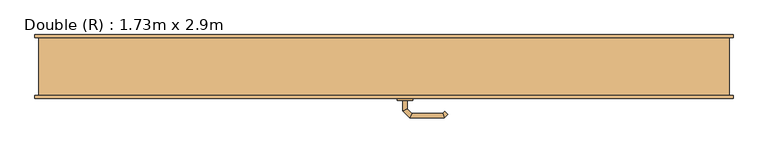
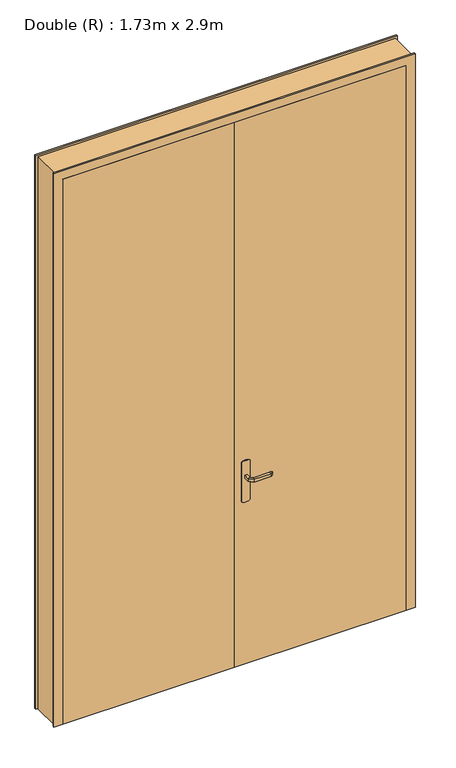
"""IFC4 building model written with IfcOpenShell, lengths in millimetres: door geometry, Double (R) : 1.73m x 2.9m."""

from ifc_helpers import new_model, si_unit, point, frame, frame_2d, origin, origin_with_axes, place, context, project, spatial, polyline, circle_curve, ellipse_curve, trimmed, segment, composite_curve, outline, extrude, faceted_brep, source, transform, mapped, element, save
from ifc_brep_helpers import plane_surface, cylinder_surface, advanced_brep


def double_r_1_73m_x_2_9m_4bc1b3c2(model_context):
    return source(origin(), model_context, "Body", "SolidModel", [
        advanced_brep(
        [(61.0, -38.0, 993.0), (61.0, -38.0, 1007.0), (49.0, -38.0, 1007.0), (49.0, -38.0, 993.0), (61.0, -15.5147955, 993.0), (61.0, -15.5147955, 1007.0), (49.0, -10.5442327, 1007.0), (49.0, -10.5442327, 993.0), (72.4852814, -4.0295141, 993.0), (72.4852814, -4.0295141, 1007.0), (67.5147186, 7.9704859, 1007.0), (67.5147186, 7.9704859, 993.0), (152.5605023, -4.0295141, 993.0), (152.5605023, -4.0295141, 1007.0), (157.531065, 7.9704859, 1007.0), (157.531065, 7.9704859, 993.0), (157.8742108, -9.3432226, 993.0), (166.3594922, -0.8579412, 993.0), (166.3594922, -0.8579412, 1007.0), (157.8742108, -9.3432226, 1007.0)],
        [
            (0, 1),
            (1, 2, circle_curve(frame((55.0, -38.0, 986.9542278), z_axis=(0.0, -1.0, 0.0), x_axis=(-1.0, 0.0, 0.0)), 20.9244589)),
            (2, 3),
            (3, 0, circle_curve(frame((55.0, -38.0, 1013.0457722), z_axis=(0.0, -1.0, 0.0), x_axis=(-1.0, 0.0, 0.0)), 20.9244589)),
            (0, 4),
            (4, 5),
            (5, 1),
            (5, 6, ellipse_curve(frame((55.0, -13.0295141, 986.9542278), z_axis=(-0.38268343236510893, -0.9238795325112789, 0.0), x_axis=(0.9238795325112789, -0.3826834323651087, 0.0)), 22.6484711, 20.9244589)),
            (6, 2),
            (6, 7),
            (7, 3),
            (7, 4, ellipse_curve(frame((55.0, -13.0295141, 1013.0457722), z_axis=(-0.38268343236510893, -0.9238795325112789, 0.0), x_axis=(0.9238795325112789, -0.3826834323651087, 0.0)), 22.6484711, 20.9244589)),
            (4, 8),
            (8, 9),
            (9, 5),
            (9, 10, ellipse_curve(frame((70.0, 1.9704859, 986.9542278), z_axis=(-0.9238795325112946, -0.38268343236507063, 0.0), x_axis=(0.3826834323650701, -0.9238795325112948, 0.0)), 22.6484711, 20.9244589)),
            (10, 6),
            (10, 11),
            (11, 7),
            (11, 8, ellipse_curve(frame((70.0, 1.9704859, 1013.0457722), z_axis=(-0.9238795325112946, -0.38268343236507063, 0.0), x_axis=(0.3826834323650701, -0.9238795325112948, 0.0)), 22.6484711, 20.9244589)),
            (8, 12),
            (12, 13),
            (13, 9),
            (13, 14, ellipse_curve(frame((155.0457837, 1.9704859, 986.9542278), z_axis=(-0.9238795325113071, 0.38268343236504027, 0.0), x_axis=(-0.38268343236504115, -0.9238795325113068, 0.0)), 22.6484711, 20.9244589)),
            (14, 10),
            (14, 15),
            (15, 11),
            (15, 12, ellipse_curve(frame((155.0457837, 1.9704859, 1013.0457722), z_axis=(-0.9238795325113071, 0.38268343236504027, 0.0), x_axis=(-0.38268343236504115, -0.9238795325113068, 0.0)), 22.6484711, 20.9244589)),
            (16, 17, circle_curve(frame((162.1168515, -5.1005819, 1013.0457722), z_axis=(0.7071067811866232, -0.7071067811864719, 0.0), x_axis=(0.7071067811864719, 0.7071067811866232, 0.0)), 20.9244589)),
            (17, 18),
            (18, 19, circle_curve(frame((162.1168515, -5.1005819, 986.9542278), z_axis=(0.7071067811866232, -0.7071067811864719, 0.0), x_axis=(0.7071067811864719, 0.7071067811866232, 0.0)), 20.9244589)),
            (19, 16),
            (12, 16),
            (19, 13),
            (18, 14),
            (17, 15),
        ],
        [
            plane_surface(frame((45.7804555, -38.0, 1000.0), z_axis=(0.0, -1.0, 0.0), x_axis=(0.0, 0.0, 1.0))),
            plane_surface(frame((61.0, -38.0, 993.0), z_axis=(1.0, 0.0, 0.0), x_axis=(0.0, 1.0, 0.0))),
            cylinder_surface(frame((55.0, -38.0, 986.9542278), z_axis=(0.0, -1.0, 0.0), x_axis=(-1.0, 0.0, 0.0)), 20.9244589),
            plane_surface(frame((49.0, -38.0, 1007.0), z_axis=(-1.0, 0.0, 0.0), x_axis=(0.0, 1.0, 0.0))),
            cylinder_surface(frame((55.0, -38.0, 1013.0457722), z_axis=(0.0, -1.0, 0.0), x_axis=(-1.0, 0.0, 0.0)), 20.9244589),
            plane_surface(frame((61.0, -15.5147955, 993.0), z_axis=(0.707106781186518, -0.707106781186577, 0.0), x_axis=(0.707106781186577, 0.707106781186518, 0.0))),
            cylinder_surface(frame((55.0, -13.0295141, 986.9542278), z_axis=(-0.7071067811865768, -0.7071067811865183, 0.0), x_axis=(-0.7071067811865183, 0.7071067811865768, 0.0)), 20.9244589),
            plane_surface(frame((49.0, -10.5442327, 1007.0), z_axis=(-0.7071067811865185, 0.7071067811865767, 0.0), x_axis=(0.7071067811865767, 0.7071067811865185, 0.0))),
            cylinder_surface(frame((55.0, -13.0295141, 1013.0457722), z_axis=(-0.7071067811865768, -0.7071067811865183, 0.0), x_axis=(-0.7071067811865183, 0.7071067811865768, 0.0)), 20.9244589),
            plane_surface(frame((72.4852814, -4.0295141, 993.0), z_axis=(0.0, -1.0, 0.0), x_axis=(1.0, 0.0, 0.0))),
            cylinder_surface(frame((70.0, 1.9704859, 986.9542278), z_axis=(-1.0, 0.0, 0.0), x_axis=(0.0, 1.0, 0.0)), 20.9244589),
            plane_surface(frame((67.5147186, 7.9704859, 1007.0), z_axis=(0.0, 1.0, 0.0), x_axis=(1.0, 0.0, 0.0))),
            cylinder_surface(frame((70.0, 1.9704859, 1013.0457722), z_axis=(-1.0, 0.0, 0.0), x_axis=(0.0, 1.0, 0.0)), 20.9244589),
            plane_surface(frame((162.1168515, -5.1005819, 990.7804555), z_axis=(0.7071067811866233, -0.7071067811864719, 0.0), x_axis=(0.7071067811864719, 0.7071067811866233, 0.0))),
            plane_surface(frame((152.5605023, -4.0295141, 993.0), z_axis=(-0.707106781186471, -0.7071067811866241, 0.0), x_axis=(0.7071067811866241, -0.707106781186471, 0.0))),
            cylinder_surface(frame((155.0457837, 1.9704859, 986.9542278), z_axis=(-0.7071067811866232, 0.7071067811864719, 0.0), x_axis=(0.7071067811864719, 0.7071067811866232, 0.0)), 20.9244589),
            plane_surface(frame((157.531065, 7.9704859, 1007.0), z_axis=(0.7071067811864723, 0.7071067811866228, 0.0), x_axis=(0.7071067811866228, -0.7071067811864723, 0.0))),
            cylinder_surface(frame((155.0457837, 1.9704859, 1013.0457722), z_axis=(-0.7071067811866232, 0.7071067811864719, 0.0), x_axis=(0.7071067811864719, 0.7071067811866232, 0.0)), 20.9244589),
        ],
        [
            (0, [[1, 2, 3, 4]]),
            (1, [[-1, 5, 6, 7]]),
            (2, [[-2, -7, 8, 9]]),
            (3, [[-3, -9, 10, 11]]),
            (4, [[-4, -11, 12, -5]]),
            (5, [[-6, 13, 14, 15]]),
            (6, [[-8, -15, 16, 17]]),
            (7, [[-10, -17, 18, 19]]),
            (8, [[-12, -19, 20, -13]]),
            (9, [[-14, 21, 22, 23]]),
            (10, [[-16, -23, 24, 25]]),
            (11, [[-18, -25, 26, 27]]),
            (12, [[-20, -27, 28, -21]]),
            (13, [[29, 30, 31, 32]]),
            (14, [[-22, 33, -32, 34]]),
            (15, [[-24, -34, -31, 35]]),
            (16, [[-26, -35, -30, 36]]),
            (17, [[-28, -36, -29, -33]]),
        ],
    ),
        advanced_brep(
        [(49.0, -88.0, 1007.0), (61.0, -88.0, 1007.0), (61.0, -88.0, 993.0), (49.0, -88.0, 993.0), (49.0, -115.6509507, 1007.0), (61.0, -110.680388, 1007.0), (61.0, -110.680388, 993.0), (49.0, -115.6509507, 993.0), (67.37721, -134.0281607, 1007.0), (72.3477727, -122.0281607, 1007.0), (72.3477727, -122.0281607, 993.0), (67.37721, -134.0281607, 993.0), (157.503922, -134.0281607, 1007.0), (152.5333592, -122.0281607, 1007.0), (152.5333592, -122.0281607, 993.0), (157.503922, -134.0281607, 993.0), (166.3323491, -125.1997336, 1007.0), (166.3323491, -125.1997336, 993.0), (157.8470677, -116.7144522, 993.0), (157.8470677, -116.7144522, 1007.0)],
        [
            (0, 1, circle_curve(frame((55.0, -88.0, 986.9542278), z_axis=(0.0, 1.0, 0.0), x_axis=(1.0, 0.0, 0.0)), 20.9244589)),
            (1, 2),
            (2, 3, circle_curve(frame((55.0, -88.0, 1013.0457722), z_axis=(0.0, 1.0, 0.0), x_axis=(1.0, 0.0, 0.0)), 20.9244589)),
            (3, 0),
            (0, 4),
            (4, 5, ellipse_curve(frame((55.0, -113.1656693, 986.9542278), z_axis=(-0.3826834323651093, 0.9238795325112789, 0.0), x_axis=(0.9238795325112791, 0.38268343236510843, 0.0)), 22.6484711, 20.9244589)),
            (5, 1),
            (5, 6),
            (6, 2),
            (6, 7, ellipse_curve(frame((55.0, -113.1656693, 1013.0457722), z_axis=(-0.3826834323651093, 0.9238795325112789, 0.0), x_axis=(0.9238795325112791, 0.38268343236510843, 0.0)), 22.6484711, 20.9244589)),
            (7, 3),
            (7, 4),
            (4, 8),
            (8, 9, ellipse_curve(frame((69.8624914, -128.0281607, 986.9542278), z_axis=(-0.9238795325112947, 0.38268343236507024, 0.0), x_axis=(0.3826834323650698, 0.9238795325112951, 0.0)), 22.6484711, 20.9244589)),
            (9, 5),
            (9, 10),
            (10, 6),
            (10, 11, ellipse_curve(frame((69.8624914, -128.0281607, 1013.0457722), z_axis=(-0.9238795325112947, 0.38268343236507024, 0.0), x_axis=(0.3826834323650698, 0.9238795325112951, 0.0)), 22.6484711, 20.9244589)),
            (11, 7),
            (11, 8),
            (8, 12),
            (12, 13, ellipse_curve(frame((155.0186406, -128.0281607, 986.9542278), z_axis=(-0.9238795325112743, -0.3826834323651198, 0.0), x_axis=(-0.38268343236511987, 0.9238795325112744, 0.0)), 22.6484711, 20.9244589)),
            (13, 9),
            (13, 14),
            (14, 10),
            (14, 15, ellipse_curve(frame((155.0186406, -128.0281607, 1013.0457722), z_axis=(-0.9238795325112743, -0.3826834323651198, 0.0), x_axis=(-0.38268343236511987, 0.9238795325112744, 0.0)), 22.6484711, 20.9244589)),
            (15, 11),
            (15, 12),
            (16, 17),
            (17, 18, circle_curve(frame((162.0897084, -120.9570929, 1013.0457722), z_axis=(0.7071067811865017, 0.7071067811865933, 0.0), x_axis=(-0.7071067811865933, 0.7071067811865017, 0.0)), 20.9244589)),
            (18, 19),
            (19, 16, circle_curve(frame((162.0897084, -120.9570929, 986.9542278), z_axis=(0.7071067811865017, 0.7071067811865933, 0.0), x_axis=(-0.7071067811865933, 0.7071067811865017, 0.0)), 20.9244589)),
            (12, 16),
            (19, 13),
            (18, 14),
            (17, 15),
        ],
        [
            plane_surface(frame((45.7804555, -88.0, 1000.0), z_axis=(0.0, 1.0, 0.0), x_axis=(0.0, 0.0, -1.0))),
            cylinder_surface(frame((55.0, -88.0, 986.9542278), z_axis=(0.0, 1.0, 0.0), x_axis=(1.0, 0.0, 0.0)), 20.9244589),
            plane_surface(frame((61.0, -88.0, 1007.0), z_axis=(1.0, 0.0, 0.0), x_axis=(0.0, -1.0, 0.0))),
            cylinder_surface(frame((55.0, -88.0, 1013.0457722), z_axis=(0.0, 1.0, 0.0), x_axis=(1.0, 0.0, 0.0)), 20.9244589),
            plane_surface(frame((49.0, -88.0, 993.0), z_axis=(-1.0, 0.0, 0.0), x_axis=(0.0, -1.0, 0.0))),
            cylinder_surface(frame((55.0, -113.1656693, 986.9542278), z_axis=(-0.7071067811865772, 0.7071067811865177, 0.0), x_axis=(0.7071067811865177, 0.7071067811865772, 0.0)), 20.9244589),
            plane_surface(frame((61.0, -110.680388, 1007.0), z_axis=(0.7071067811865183, 0.7071067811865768, 0.0), x_axis=(0.7071067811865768, -0.7071067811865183, 0.0))),
            cylinder_surface(frame((55.0, -113.1656693, 1013.0457722), z_axis=(-0.7071067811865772, 0.7071067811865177, 0.0), x_axis=(0.7071067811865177, 0.7071067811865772, 0.0)), 20.9244589),
            plane_surface(frame((49.0, -115.6509507, 993.0), z_axis=(-0.707106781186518, -0.707106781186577, 0.0), x_axis=(0.707106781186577, -0.707106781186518, 0.0))),
            cylinder_surface(frame((69.8624914, -128.0281607, 986.9542278), z_axis=(-1.0, 0.0, 0.0), x_axis=(0.0, 1.0, 0.0)), 20.9244589),
            plane_surface(frame((72.3477727, -122.0281607, 1007.0), z_axis=(0.0, 1.0, 0.0), x_axis=(1.0, 0.0, 0.0))),
            cylinder_surface(frame((69.8624914, -128.0281607, 1013.0457722), z_axis=(-1.0, 0.0, 0.0), x_axis=(0.0, 1.0, 0.0)), 20.9244589),
            plane_surface(frame((67.37721, -134.0281607, 993.0), z_axis=(0.0, -1.0, 0.0), x_axis=(1.0, 0.0, 0.0))),
            plane_surface(frame((162.0897084, -120.9570929, 1009.2195445), z_axis=(0.7071067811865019, 0.7071067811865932, 0.0), x_axis=(0.7071067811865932, -0.7071067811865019, 0.0))),
            cylinder_surface(frame((155.0186406, -128.0281607, 986.9542278), z_axis=(-0.7071067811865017, -0.7071067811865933, 0.0), x_axis=(-0.7071067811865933, 0.7071067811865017, 0.0)), 20.9244589),
            plane_surface(frame((152.5333592, -122.0281607, 1007.0), z_axis=(-0.7071067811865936, 0.7071067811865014, 0.0), x_axis=(0.7071067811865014, 0.7071067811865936, 0.0))),
            cylinder_surface(frame((155.0186406, -128.0281607, 1013.0457722), z_axis=(-0.7071067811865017, -0.7071067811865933, 0.0), x_axis=(-0.7071067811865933, 0.7071067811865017, 0.0)), 20.9244589),
            plane_surface(frame((157.503922, -134.0281607, 993.0), z_axis=(0.707106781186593, -0.7071067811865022, 0.0), x_axis=(0.7071067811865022, 0.707106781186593, 0.0))),
        ],
        [
            (0, [[1, 2, 3, 4]]),
            (1, [[-1, 5, 6, 7]]),
            (2, [[-2, -7, 8, 9]]),
            (3, [[-3, -9, 10, 11]]),
            (4, [[-4, -11, 12, -5]]),
            (5, [[-6, 13, 14, 15]]),
            (6, [[-8, -15, 16, 17]]),
            (7, [[-10, -17, 18, 19]]),
            (8, [[-12, -19, 20, -13]]),
            (9, [[-14, 21, 22, 23]]),
            (10, [[-16, -23, 24, 25]]),
            (11, [[-18, -25, 26, 27]]),
            (12, [[-20, -27, 28, -21]]),
            (13, [[29, 30, 31, 32]]),
            (14, [[-22, 33, -32, 34]]),
            (15, [[-24, -34, -31, 35]]),
            (16, [[-26, -35, -30, 36]]),
            (17, [[-28, -36, -29, -33]]),
        ],
    ),
        extrude(outline(composite_curve([segment(trimmed(circle_curve(frame_2d((1045.3589838, 55.0)), 40.0), [point((1080.0, 75.0))], [point((1080.0, 35.0))], False, "CARTESIAN"), True, "CONTINUOUS"), segment(polyline([(1080.0, 35.0), (870.0, 35.0)]), True, "CONTINUOUS"), segment(trimmed(circle_curve(frame_2d((904.6410162, 55.0)), 40.0), [point((870.0, 35.0))], [point((870.0, 75.0))], False, "CARTESIAN"), True, "CONTINUOUS"), segment(polyline([(870.0, 75.0), (1080.0, 75.0)]), True, "CONTINUOUS")], self_intersect=False)), frame((0.0, -43.0, 0.0), z_axis=(0.0, 1.0, 0.0), x_axis=(0.0, 0.0, 1.0)), (0.0, 0.0, 1.0), 5.0),
        extrude(outline(composite_curve([segment(trimmed(circle_curve(frame_2d((904.6410162, 55.0)), 40.0), [point((870.0, 35.0))], [point((870.0, 75.0))], False, "CARTESIAN"), True, "CONTINUOUS"), segment(polyline([(870.0, 75.0), (1080.0, 75.0)]), True, "CONTINUOUS"), segment(trimmed(circle_curve(frame_2d((1045.3589838, 55.0)), 40.0), [point((1080.0, 75.0))], [point((1080.0, 35.0))], False, "CARTESIAN"), True, "CONTINUOUS"), segment(polyline([(1080.0, 35.0), (870.0, 35.0)]), True, "CONTINUOUS")], self_intersect=False)), frame((0.0, -88.0, 0.0), z_axis=(0.0, 1.0, 0.0), x_axis=(0.0, 0.0, 1.0)), (0.0, 0.0, 1.0), 5.0),
        faceted_brep([(-900.0, -75.0, 0.0), (-900.0, 75.0, 0.0), (-910.0, 75.0, 0.0), (-910.0, 83.0, 0.0), (-850.0, 83.0, 0.0), (-850.0, -43.0, 0.0), (-865.0, -43.0, 0.0), (-865.0, -83.0, 0.0), (-910.0, -83.0, 0.0), (-910.0, -75.0, 0.0), (-900.0, -75.0, 2935.0), (-900.0, 75.0, 2935.0), (900.0, 75.0, 2935.0), (900.0, 75.0, 0.0), (910.0, 75.0, 0.0), (910.0, 75.0, 2945.0), (-910.0, 75.0, 2945.0), (-910.0, 83.0, 2945.0), (910.0, 83.0, 2945.0), (910.0, 83.0, 0.0), (850.0, 83.0, 0.0), (850.0, 83.0, 2885.0), (-850.0, 83.0, 2885.0), (-850.0, -43.0, 2885.0), (850.0, -43.0, 2885.0), (850.0, -43.0, 0.0), (865.0, -43.0, 0.0), (865.0, -43.0, 2900.0), (-865.0, -43.0, 2900.0), (-865.0, -83.0, 2900.0), (865.0, -83.0, 2900.0), (865.0, -83.0, 0.0), (910.0, -83.0, 0.0), (910.0, -83.0, 2945.0), (-910.0, -83.0, 2945.0), (-910.0, -75.0, 2945.0), (910.0, -75.0, 2945.0), (910.0, -75.0, 0.0), (900.0, -75.0, 0.0), (900.0, -75.0, 2935.0)], [[[0, 1, 2, 3, 4, 5, 6, 7, 8, 9]], [[1, 0, 10, 11]], [[2, 1, 11, 12, 13, 14, 15, 16]], [[3, 2, 16, 17]], [[4, 3, 17, 18, 19, 20, 21, 22]], [[5, 4, 22, 23]], [[6, 5, 23, 24, 25, 26, 27, 28]], [[7, 6, 28, 29]], [[8, 7, 29, 30, 31, 32, 33, 34]], [[9, 8, 34, 35]], [[0, 9, 35, 36, 37, 38, 39, 10]], [[12, 39, 38, 13]], [[38, 37, 32, 31, 26, 25, 20, 19, 14, 13]], [[18, 15, 14, 19]], [[24, 21, 20, 25]], [[30, 27, 26, 31]], [[36, 33, 32, 37]], [[11, 10, 39, 12]], [[17, 16, 15, 18]], [[23, 22, 21, 24]], [[29, 28, 27, 30]], [[35, 34, 33, 36]]]),
        extrude(outline(polyline([(865.0, -83.0), (0.0, -83.0), (0.0, -43.0), (865.0, -43.0), (865.0, -83.0)])), origin_with_axes(), (0.0, 0.0, 1.0), 2900.0),
        extrude(outline(polyline([(0.0, -83.0), (-865.0, -83.0), (-865.0, -43.0), (0.0, -43.0), (0.0, -83.0)])), origin_with_axes(), (0.0, 0.0, 1.0), 2900.0),
    ])


if __name__ == "__main__":
    model = new_model("IFC4")
    model_context = context("Model", 3, world=origin())
    ifc_project = project(units=[si_unit("LENGTHUNIT", "METRE", prefix="MILLI")], contexts=[model_context])
    site = spatial("IfcSite", under=ifc_project)
    building = spatial("IfcBuilding", under=site)
    placement = place(None, origin())
    double_r_1_73m_x_2_9m_shape = double_r_1_73m_x_2_9m_4bc1b3c2(model_context)
    element("IfcDoor", 1, ObjectType="Double (R) : 1.73m x 2.9m", at=placement, inside=building, context=model_context, shape_type="MappedRepresentation", body=[
        mapped(double_r_1_73m_x_2_9m_shape, transform((0.0, 0.0, 0.0), x_axis=(1.0, 0.0, 0.0), y_axis=(0.0, 1.0, 0.0), z_axis=(0.0, 0.0, 1.0))),
    ])
    save(model, "model.ifc")
